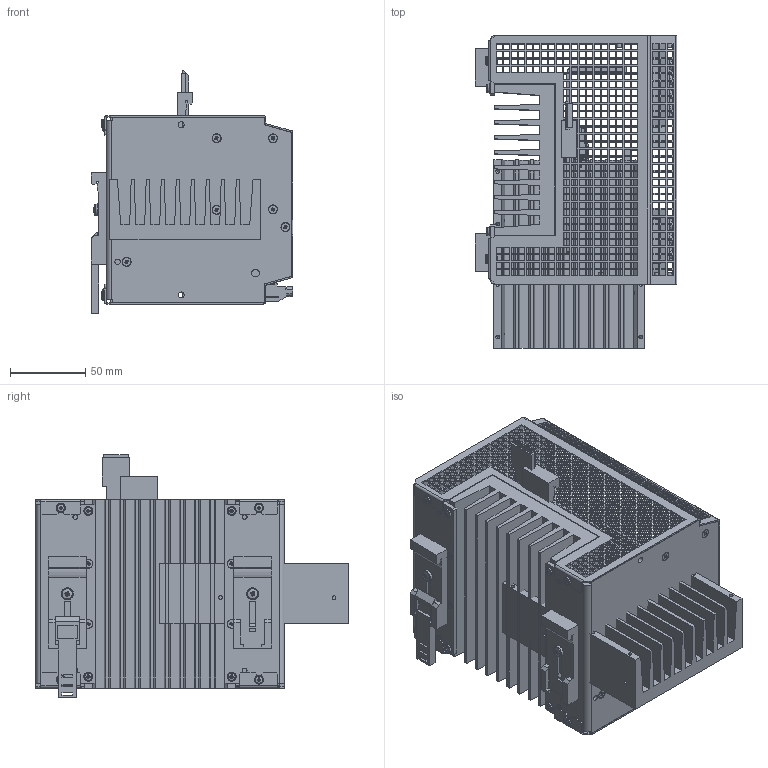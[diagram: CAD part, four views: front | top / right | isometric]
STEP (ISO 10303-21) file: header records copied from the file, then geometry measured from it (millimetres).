
FILE_DESCRIPTION( ( 'Unknown' ), '1' );
FILE_NAME( 'J:/DESBAKUP/480PSN184/Controlled/SolidEdge/TSP 600-1XX.stp', 'Unknown', ( 'Unknown' ), ( 'Unknown' ), 'PSStep 13.0', 'Unknown', ' ' );
FILE_SCHEMA( ( 'AUTOMOTIVE_DESIGN { 1 0 10303 214 1 1 1 1 }' ) );
Length unit declared in the file: millimetre
Products named in the file (36): Assem1; 24300124-24300127 ASEMBLY; 24300124; 24300127; Hood1; MDD-960PRL194.04; Side2; Side1; M3 Screw  Adjustable Cross Recessed Countersunk Flat Head Screw DIN 965 -oa0; M3 Screw  Adjustable Cross Recessed Countersunk Flat Head Screw DIN 965 -oa1; M3 Screw  Adjustable Cross Recessed Countersunk Flat Head Screw DIN 965 -oa2; M3 Screw  Adjustable Cross Recessed Countersunk Flat Head Screw DIN 965 -oa3; M3 Screw  Adjustable Cross Recessed Countersunk Flat Head Screw DIN 965 -oa4; M3 Screw  Adjustable Cross Recessed Countersunk Flat Head Screw DIN 965 -oa5; M3 Screw  Adjustable Cross Recessed Countersunk Flat Head Screw DIN 965 -oa6; M3 Screw  Adjustable Cross Recessed Countersunk Flat Head Screw DIN 965 -oa7; M3 Screw  Adjustable Cross Recessed Countersunk Flat Head Screw DIN 965 -oa8; M3 Screw  Adjustable Cross Recessed Countersunk Flat Head Screw DIN 965 -oa9; M3 Screw  Adjustable Cross Recessed Countersunk Flat Head Screw DIN 965 -oa10; M3 Screw  Adjustable Cross Recessed Countersunk Flat Head Screw DIN 965 -oa11; M3 Screw  Adjustable Cross Recessed Countersunk Flat Head Screw DIN 965 -oa12; M3 Screw Adjustable Cross  Recessed Raised Head Din 7985-oa13; M3 Screw Adjustable Cross  Recessed Raised Head Din 7985-oa14; M3 Screw Adjustable Cross  Recessed Raised Head Din 7985-oa15; M3 Screw Adjustable Cross  Recessed Raised Head Din 7985-oa16; M3 Screw Adjustable Cross  Recessed Raised Head Din 7985-oa17; M3 Screw Adjustable Cross  Recessed Raised Head Din 7985-oa18; M3 Screw Adjustable Cross  Recessed Raised Head Din 7985-oa19; M3 Screw Adjustable Cross  Recessed Raised Head Din 7985-oa20; M3 Screw Adjustable Cross  Recessed Raised Head Din 7985-oa21; M4 Screw Adjustable Cross Recessed Raised Head Din 7985-oa23; M4 Screw Adjustable Cross Recessed Raised Head Din 7985-oa24; 1714984; 1714971; 1715734; Semishear1
Bounding box: 134.01 x 207.5 x 161.14 mm (x, y, z)
Volume: 877802.7 mm3; surface area: 579999.8 mm2
Topology: 76 solids, 76 shells, 13326 faces, 40119 edges, 27124 vertices
Faces by surface type: plane 12153, cylinder 563, bspline 394, cone 122, torus 68, sphere 26
Full cylindrical faces by diameter (mm): 0.457 x5, 0.609 x2, 1.3 x18, 2.4 x16, 2.459 x30, 3 x50, 3.2 x58, 3.5 x4, 3.783 x6, 4 x30, 4.22 x4, 4.5 x2, 5 x18, 5.2 x12, 5.6 x26
Entity records: 291464 total; most frequent: CARTESIAN_POINT 59350, ORIENTED_EDGE 38692, DIRECTION 31427, EDGE_CURVE 19346, LINE 17405, VECTOR 17405, VERTEX_POINT 13224, EDGE_LOOP 9515
